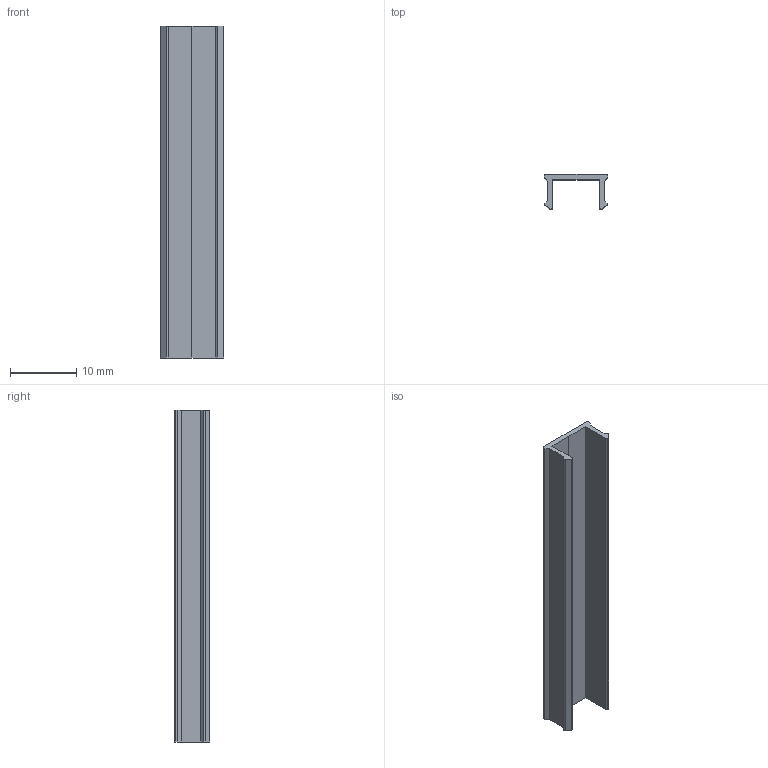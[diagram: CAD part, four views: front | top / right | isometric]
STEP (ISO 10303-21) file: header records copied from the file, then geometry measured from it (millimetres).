
FILE_DESCRIPTION (( 'STEP AP203' ), '1' );
FILE_NAME ('DS08E.STEP', '2019-03-25T09:18:05', ( '' ), ( '' ), 'SwSTEP 2.0', 'SolidWorks 2012', '' );
FILE_SCHEMA (( 'CONFIG_CONTROL_DESIGN' ));
Length unit declared in the file: millimetre
Products named in the file (1): DS08E
Bounding box: 9.6 x 5.3 x 50 mm (x, y, z)
Volume: 714.8 mm3; surface area: 1937.1 mm2
Topology: 1 solids, 1 shells, 27 faces, 75 edges, 50 vertices
Faces by surface type: plane 20, cylinder 7
Entity records: 940 total; most frequent: CARTESIAN_POINT 153, ORIENTED_EDGE 150, DIRECTION 145, EDGE_CURVE 75, VECTOR 61, LINE 61, VERTEX_POINT 50, AXIS2_PLACEMENT_3D 42
